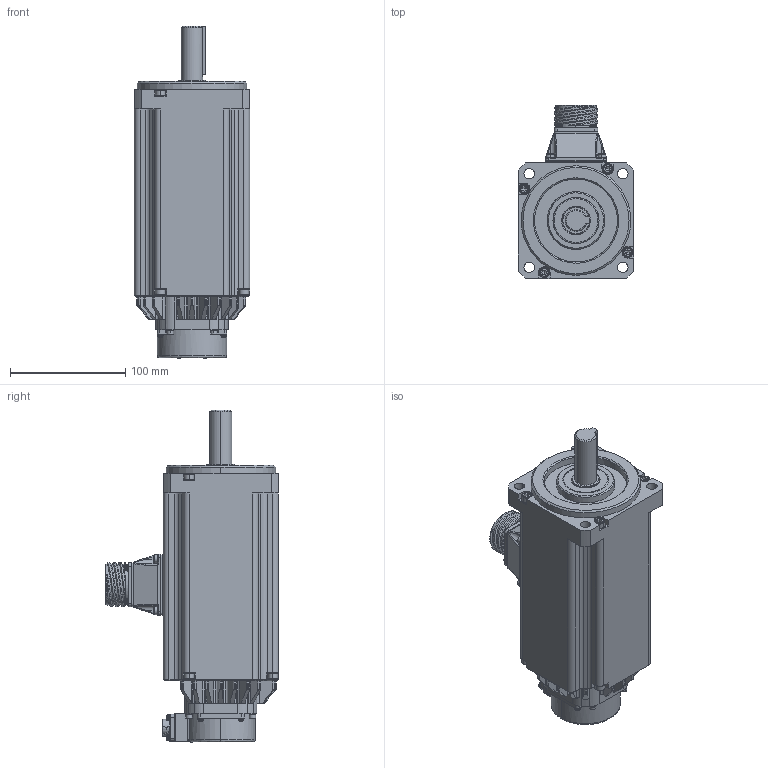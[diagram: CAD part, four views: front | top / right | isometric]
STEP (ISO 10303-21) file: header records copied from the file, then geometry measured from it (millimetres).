
FILE_DESCRIPTION (( 'STEP AP203' ), '1' );
FILE_NAME ('TSM3412N7371E731‘•”z.STEP', '2018-06-23T11:52:26', ( '' ), ( '' ), 'SwSTEP 2.0', 'SolidWorks 2017', '' );
FILE_SCHEMA (( 'CONFIG_CONTROL_DESIGN' ));
Products named in the file (1): TSM3412N7371E731装配
Bounding box: 100 x 150 x 288 mm (x, y, z)
Volume: 1885836.3 mm3; surface area: 149260.5 mm2
Topology: 1 solids, 22 shells, 1803 faces, 4888 edges, 3193 vertices
Faces by surface type: plane 734, cylinder 563, bspline 348, cone 158
Entity records: 86161 total; most frequent: CARTESIAN_POINT 45515, ORIENTED_EDGE 9654, DIRECTION 6391, EDGE_CURVE 4827, VERTEX_POINT 3193, VECTOR 2353, LINE 2353, AXIS2_PLACEMENT_3D 2019
